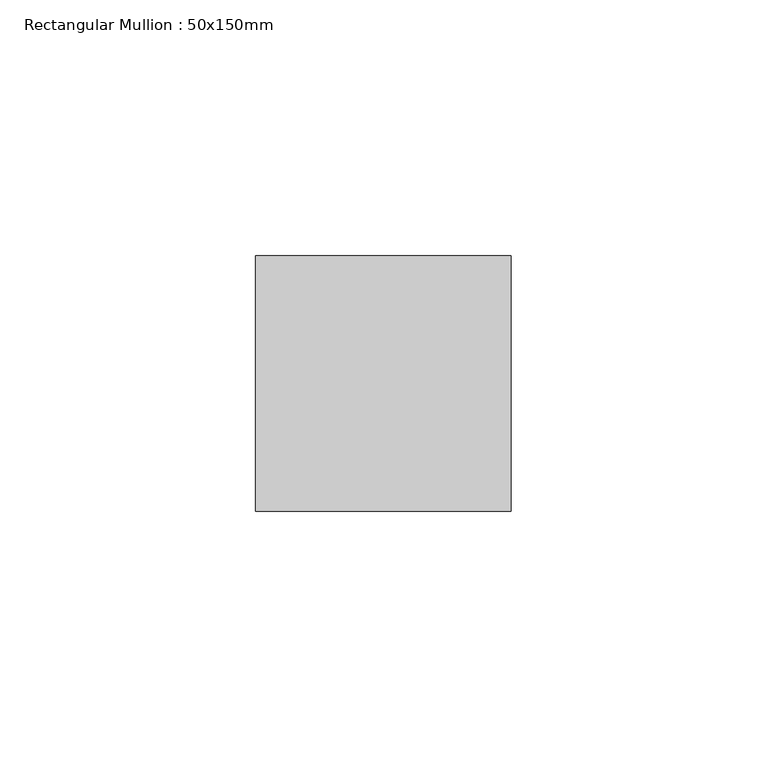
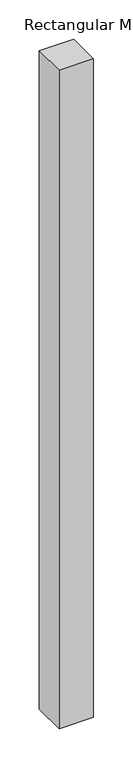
"""IFC4 building model written with IfcOpenShell, lengths in millimetres: member geometry, Rectangular Mullion : 50x150mm."""

import ifcopenshell
import ifcopenshell.guid

model = None  # the IFC model being written
_history = None  # IfcOwnerHistory: only IFC2X3 demands one
_inside = {}  # id of a spatial element -> (the spatial element, [elements in it])
_under = {}  # id of a project, library or spatial element -> (it, [spatial elements below it])
_declared = {}  # id of a project -> (the project, [libraries it declares])
_typed = {}  # id of a type object -> (the type object, [elements of that type])
_made_of = {}  # id of a material, layer set ... -> (it, [elements and type objects made of it])


def new_model(schema):
    """Start an empty IFC model of exactly this schema.

    Asked for "IFC4X3", IfcOpenShell would pick the latest addendum, in which some entities
    have other attributes; the version numbers below select the first issue.
    IFC2X3 requires an IfcOwnerHistory on every rooted entity: one is made here for all.
    """
    global model, _history
    if schema == "IFC4X3":
        model = ifcopenshell.file(schema_version=(4, 3, 0, 0))
    else:
        model = ifcopenshell.file(schema=schema)
    _inside.clear()
    _under.clear()
    _declared.clear()
    _typed.clear()
    _made_of.clear()
    _history = None
    if model.schema == "IFC2X3":
        org = make("IfcOrganization", Name="unknown")
        user = make(
            "IfcPersonAndOrganization",
            ThePerson=make("IfcPerson", FamilyName="unknown"),
            TheOrganization=org,
        )
        app = make(
            "IfcApplication",
            ApplicationDeveloper=org,
            Version="unknown",
            ApplicationFullName="unknown",
            ApplicationIdentifier="unknown",
        )
        _history = make(
            "IfcOwnerHistory",
            OwningUser=user,
            OwningApplication=app,
            ChangeAction="ADDED",
            CreationDate=0,
        )
    return model


def make(cls, **values):
    """One entity of the class cls with the attributes given. An attribute that is None is left unset."""
    return model.create_entity(
        cls, **{name: value for name, value in values.items() if value is not None}
    )


def rooted(cls, **values):
    """An entity with a GlobalId (a new one), such as an element, a storey or a relation."""
    return make(cls, GlobalId=ifcopenshell.guid.new(), OwnerHistory=_history, **values)


def si_unit(unit_type, name, prefix=None):
    """IfcSIUnit, for example si_unit("LENGTHUNIT", "METRE", prefix="MILLI")."""
    return make("IfcSIUnit", UnitType=unit_type, Prefix=prefix, Name=name)


def assignment(units):
    """IfcUnitAssignment: the units of a project."""
    return None if units is None else make("IfcUnitAssignment", Units=units)


def point(xyz):
    """IfcCartesianPoint."""
    return None if xyz is None else make("IfcCartesianPoint", Coordinates=xyz)


def direction(xyz):
    """IfcDirection."""
    return None if xyz is None else make("IfcDirection", DirectionRatios=xyz)


def frame(location, z_axis=None, x_axis=None):
    """IfcAxis2Placement3D, a coordinate frame: its origin and axes. An axis left out is left unset."""
    return make(
        "IfcAxis2Placement3D",
        Location=point(location),
        Axis=direction(z_axis),
        RefDirection=direction(x_axis),
    )


def origin():
    """The frame at (0, 0, 0) with its axes left unset."""
    return frame((0.0, 0.0, 0.0))


def place(relative_to, where):
    """IfcLocalPlacement: puts the frame where relative to a parent placement (None: the world)."""
    return make(
        "IfcLocalPlacement", PlacementRelTo=relative_to, RelativePlacement=where
    )


def context(
    kind, dimensions, precision=None, world=None, true_north=None, identifier=None
):
    """IfcGeometricRepresentationContext, for example the 3D "Model" context."""
    return make(
        "IfcGeometricRepresentationContext",
        ContextIdentifier=identifier,
        ContextType=kind,
        CoordinateSpaceDimension=dimensions,
        Precision=precision,
        WorldCoordinateSystem=world,
        TrueNorth=true_north,
    )


def project(units=None, contexts=None):
    """IfcProject with its units and contexts."""
    return rooted(
        "IfcProject",
        Name="project",
        RepresentationContexts=contexts,
        UnitsInContext=assignment(units),
    )


def spatial(cls, under=None, at=None, **own):
    """A site, building, storey or space (cls), placed at a placement, below another one or the project."""
    s = rooted(cls, ObjectPlacement=at, **own)
    if under is not None:
        _under.setdefault(under.id(), (under, []))[1].append(s)
    return s


def polyline(points):
    """IfcPolyline through the points."""
    return make("IfcPolyline", Points=[point(p) for p in points])


def outline(outer, holes=None, kind="AREA"):
    """IfcArbitraryClosedProfileDef: a profile drawn as a closed curve; with holes, ...WithVoids."""
    if holes is None:
        return make("IfcArbitraryClosedProfileDef", ProfileType=kind, OuterCurve=outer)
    return make(
        "IfcArbitraryProfileDefWithVoids",
        ProfileType=kind,
        OuterCurve=outer,
        InnerCurves=holes,
    )


def extrude(swept, where, along, depth):
    """IfcExtrudedAreaSolid: the profile swept, set in the frame where, extruded along a direction by depth."""
    return make(
        "IfcExtrudedAreaSolid",
        SweptArea=swept,
        Position=where,
        ExtrudedDirection=direction(along),
        Depth=depth,
    )


def shape(context_of_items, identifier, shape_type, items):
    """IfcShapeRepresentation: the items that make up one representation, for example the "Body"."""
    return make(
        "IfcShapeRepresentation",
        ContextOfItems=context_of_items,
        RepresentationIdentifier=identifier,
        RepresentationType=shape_type,
        Items=items,
    )


def source(mapping_origin, context_of_items, identifier, shape_type, items):
    """IfcRepresentationMap: a shape defined once, which mapped items show again and again."""
    return make(
        "IfcRepresentationMap",
        MappingOrigin=mapping_origin,
        MappedRepresentation=shape(context_of_items, identifier, shape_type, items),
    )


def transform(
    local_origin,
    x_axis=None,
    y_axis=None,
    z_axis=None,
    scale=None,
    scale2=None,
    scale3=None,
    uniform=True,
):
    """IfcCartesianTransformationOperator3D, or its non-uniform kind. x_axis, y_axis, z_axis: its Axis1, 2, 3."""
    if uniform:
        return make(
            "IfcCartesianTransformationOperator3D",
            Axis1=direction(x_axis),
            Axis2=direction(y_axis),
            LocalOrigin=point(local_origin),
            Scale=scale,
            Axis3=direction(z_axis),
        )
    return make(
        "IfcCartesianTransformationOperator3DnonUniform",
        Axis1=direction(x_axis),
        Axis2=direction(y_axis),
        LocalOrigin=point(local_origin),
        Scale=scale,
        Axis3=direction(z_axis),
        Scale2=scale2,
        Scale3=scale3,
    )


def mapped(mapping_source, mapping_target):
    """IfcMappedItem: shows the shape of a source again, moved by a transform."""
    return make(
        "IfcMappedItem", MappingSource=mapping_source, MappingTarget=mapping_target
    )


def made_of(thing, what):
    """Note that an element or type object is made of a material, layer set ...; save() writes the relation."""
    if what is not None:
        _made_of.setdefault(what.id(), (what, []))[1].append(thing)
    return thing


def element(
    cls,
    number,
    at=None,
    inside=None,
    cuts=None,
    type_object=None,
    material=None,
    context=None,
    identifier="Body",
    shape_type=None,
    held_by="IfcProductDefinitionShape",
    body=None,
    shapes=None,
    **own,
):
    """One element of the class cls, such as IfcWall. Its Tag is "e" and its number.

    at: its placement. inside: the storey or other place that contains it. cuts: it is an
    opening in that element (IfcRelVoidsElement). A single representation is given by context,
    identifier, shape_type and body (its items); several are given by shapes. held_by: the class
    of the entity that holds the representations. save() writes the other relations.
    """
    e = rooted(cls, Tag="e%d" % number, ObjectPlacement=at, **own)
    if body is not None:
        shapes = [shape(context, identifier, shape_type, body)]
    if shapes is not None:
        e.Representation = make(held_by, Representations=shapes)
    if inside is not None:
        _inside.setdefault(inside.id(), (inside, []))[1].append(e)
    if cuts is not None:
        rooted(
            "IfcRelVoidsElement", RelatingBuildingElement=cuts, RelatedOpeningElement=e
        )
    if type_object is not None:
        _typed.setdefault(type_object.id(), (type_object, []))[1].append(e)
    return made_of(e, material)


def aggregate(whole, parts):
    """IfcRelAggregates: a whole, such as a stair, and the parts it consists of."""
    return rooted("IfcRelAggregates", RelatingObject=whole, RelatedObjects=parts)


def save(model, path):
    """Write the relations noted so far, then the file.

    IfcRelAggregates (storeys below a building ...), IfcRelContainedInSpatialStructure (elements
    in a storey), IfcRelDefinesByType, IfcRelAssociatesMaterial and IfcRelDeclares: one each for
    every whole, place, type object, material and project.
    """
    for whole, parts in _under.values():
        aggregate(whole, parts)
    for where, things in _inside.values():
        rooted(
            "IfcRelContainedInSpatialStructure",
            RelatedElements=things,
            RelatingStructure=where,
        )
    for kind, things in _typed.values():
        rooted("IfcRelDefinesByType", RelatedObjects=things, RelatingType=kind)
    for what, things in _made_of.values():
        rooted("IfcRelAssociatesMaterial", RelatedObjects=things, RelatingMaterial=what)
    for by, libraries in _declared.values():
        rooted("IfcRelDeclares", RelatingContext=by, RelatedDefinitions=libraries)
    model.write(path)


def rectangular_mullion_50x150mm_eab01e72(model_context):
    return source(origin(), model_context, "Body", "SweptSolid", [
        extrude(outline(polyline([(0.0, 25.0), (0.0, -25.0), (-50.0, -25.0), (-50.0, 25.0), (0.0, 25.0)])), frame((0.0, 0.0, -1020.0536315), z_axis=(0.0, 0.0, 1.0), x_axis=(1.0, 0.0, 0.0)), (0.0, 0.0, 1.0), 1020.0536315),
    ])


if __name__ == "__main__":
    model = new_model("IFC4")
    model_context = context("Model", 3, world=origin())
    ifc_project = project(units=[si_unit("LENGTHUNIT", "METRE", prefix="MILLI")], contexts=[model_context])
    site = spatial("IfcSite", under=ifc_project)
    building = spatial("IfcBuilding", under=site)
    placement = place(None, origin())
    rectangular_mullion_50x150mm_shape = rectangular_mullion_50x150mm_eab01e72(model_context)
    element("IfcMember", 1, ObjectType="Rectangular Mullion : 50x150mm", at=placement, inside=building, context=model_context, shape_type="MappedRepresentation", body=[
        mapped(rectangular_mullion_50x150mm_shape, transform((0.0, 0.0, 0.0), x_axis=(1.0, 0.0, 0.0), y_axis=(0.0, 1.0, 0.0), z_axis=(0.0, 0.0, 1.0))),
    ])
    save(model, "model.ifc")
